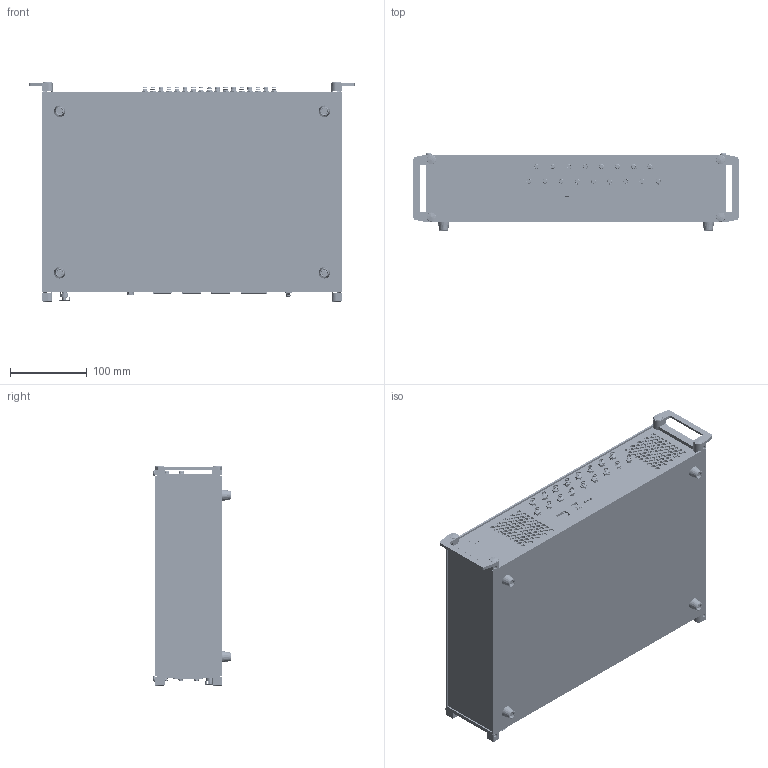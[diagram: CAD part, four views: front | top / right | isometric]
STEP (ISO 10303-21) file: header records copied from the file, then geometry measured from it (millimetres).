
FILE_DESCRIPTION (( 'STEP AP203' ), '1' );
FILE_NAME ('PQ.077.6000.0016.12_MH160_64CH.STEP', '2026-06-01T09:08:56', ( '' ), ( '' ), 'SwSTEP 2.0', 'SolidWorks 2025', '' );
FILE_SCHEMA (( 'CONFIG_CONTROL_DESIGN' ));
Length unit declared in the file: millimetre
Products named in the file (3): PQ.077.6000.0016.12_MH160_64CH; PQ_Logo_Stempel_stp-Dateien; PQ.077.6000.0016.12_MH_160_M
Assembly tree (2 placements, depth 2):
  PQ.077.6000.0016.12_MH160_64CH
    PQ.077.6000.0016.12_MH_160_M
    PQ_Logo_Stempel_stp-Dateien
Bounding box: 422.5 x 100.45 x 286.3 mm (x, y, z)
Surface area: 432260.3 mm2
Topology: 13 solids, 433 shells, 5670 faces, 21110 edges, 15557 vertices
Faces by surface type: plane 3286, cylinder 1700, cone 508, bspline 143, torus 19, sphere 14
Full cylindrical faces by diameter (mm): 1 x8, 1.3 x4, 1.5 x8, 1.6 x1, 2.2 x5, 2.261 x2, 2.65 x3, 3 x3, 3.2 x4, 3.275 x1, 3.4 x1, 3.6 x5, 3.8 x12, 3.86 x6, 4.3 x1, 4.61 x21, 4.8 x15, 5 x5, 5.2 x4, 5.35 x21, 5.451 x61, 5.5 x5, 5.7 x5, 5.725 x6, 6 x1, 6.26 x5, 7.5 x1, 7.7 x11, 8 x9, 9.4 x21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
Entity records: 224444 total; most frequent: CARTESIAN_POINT 53806, DIRECTION 35102, ORIENTED_EDGE 29782, EDGE_CURVE 20363, VERTEX_POINT 15330, VECTOR 12580, LINE 12580, AXIS2_PLACEMENT_3D 11261
